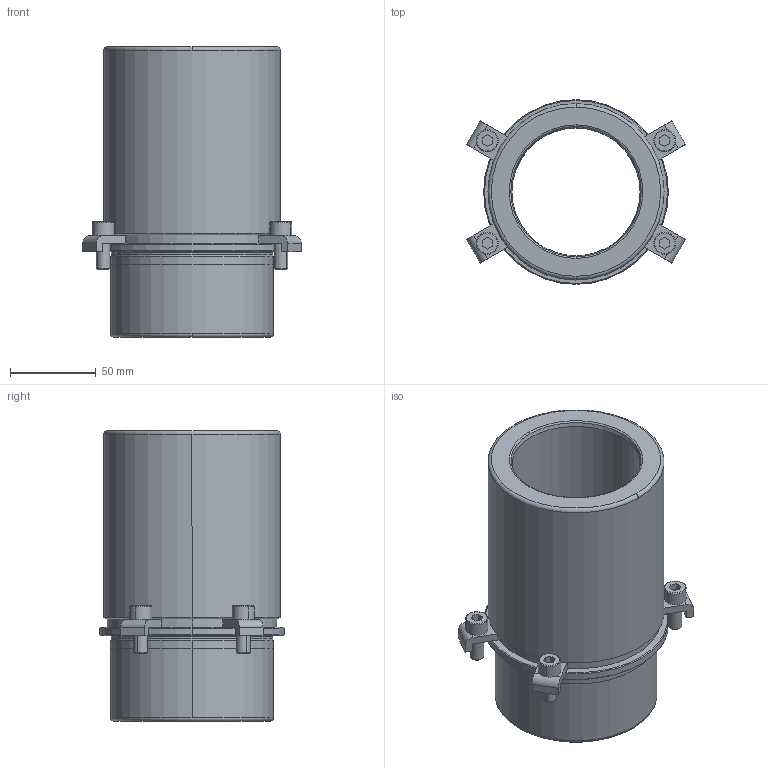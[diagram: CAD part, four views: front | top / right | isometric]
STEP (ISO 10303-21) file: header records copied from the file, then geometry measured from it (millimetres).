
FILE_DESCRIPTION((''),'2;1');
FILE_NAME('B40_063_120.stp','2009-01-05T16:44:00',(''),(''),'Mechanical Desktop 2009','Mechanical Desktop 2009',', , ');
FILE_SCHEMA(('CONFIG_CONTROL_DESIGN'));
Length unit declared in the file: millimetre
Products named in the file (2): Product; blmdl1
Assembly tree (1 placements, depth 2):
  Product
    blmdl1
Bounding box: 127.98 x 108 x 170 mm (x, y, z)
Volume: 616427.7 mm3; surface area: 112304.8 mm2
Topology: 9 solids, 9 shells, 181 faces, 446 edges, 294 vertices
Faces by surface type: plane 81, cylinder 50, cone 22, torus 16, bspline 12
Entity records: 6031 total; most frequent: CARTESIAN_POINT 1451, DIRECTION 1006, ORIENTED_EDGE 892, EDGE_CURVE 446, AXIS2_PLACEMENT_3D 389, VERTEX_POINT 294, VECTOR 228, LINE 228
